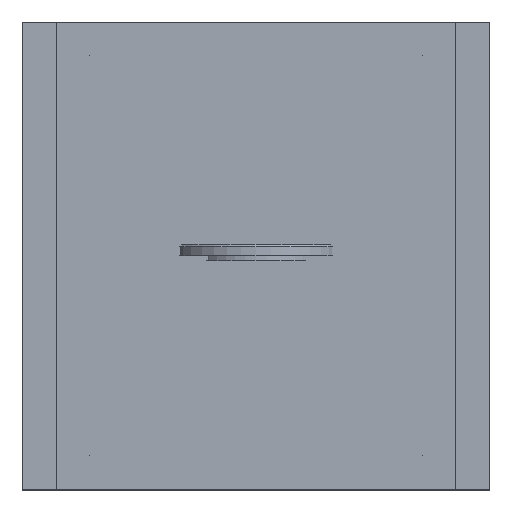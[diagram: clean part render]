
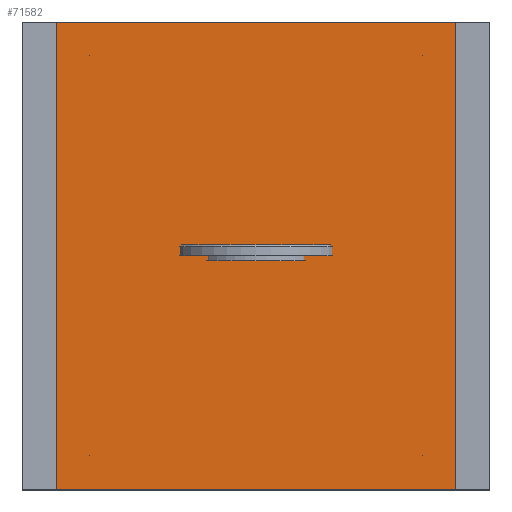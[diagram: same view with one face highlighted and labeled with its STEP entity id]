
A CAD part, top view. The second image highlights one B-rep face of the part: STEP entity #71582.
In plain terms, the highlighted planar face has unit normal (0, 0, 1).
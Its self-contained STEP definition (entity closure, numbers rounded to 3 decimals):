
#71268 = VERTEX_POINT('',#71269);
#71269 = CARTESIAN_POINT('',(-148.,-173.,402.));
#71276 = PLANE('',#71277);
#71277 = AXIS2_PLACEMENT_3D('',#71278,#71279,#71280);
#71278 = CARTESIAN_POINT('',(-148.,-173.,392.));
#71279 = DIRECTION('',(1.,0.,0.));
#71280 = DIRECTION('',(0.,0.,1.));
#71288 = PLANE('',#71289);
#71289 = AXIS2_PLACEMENT_3D('',#71290,#71291,#71292);
#71290 = CARTESIAN_POINT('',(-148.,-173.,392.));
#71291 = DIRECTION('',(0.,1.,0.));
#71292 = DIRECTION('',(0.,0.,1.));
#71329 = VERTEX_POINT('',#71330);
#71330 = CARTESIAN_POINT('',(-148.,173.,402.));
#71344 = PLANE('',#71345);
#71345 = AXIS2_PLACEMENT_3D('',#71346,#71347,#71348);
#71346 = CARTESIAN_POINT('',(-148.,173.,392.));
#71347 = DIRECTION('',(0.,1.,0.));
#71348 = DIRECTION('',(0.,0.,1.));
#71356 = EDGE_CURVE('',#71268,#71329,#71357,.T.);
#71357 = SURFACE_CURVE('',#71358,(#71362,#71369),.PCURVE_S1.);
#71358 = LINE('',#71359,#71360);
#71359 = CARTESIAN_POINT('',(-148.,-173.,402.));
#71360 = VECTOR('',#71361,1.);
#71361 = DIRECTION('',(0.,1.,0.));
#71362 = PCURVE('',#71276,#71363);
#71363 = DEFINITIONAL_REPRESENTATION('',(#71364),#71368);
#71364 = LINE('',#71365,#71366);
#71365 = CARTESIAN_POINT('',(10.,0.));
#71366 = VECTOR('',#71367,1.);
#71367 = DIRECTION('',(0.,-1.));
#71368 = ( GEOMETRIC_REPRESENTATION_CONTEXT(2) 
PARAMETRIC_REPRESENTATION_CONTEXT() REPRESENTATION_CONTEXT('2D SPACE',''
  ) );
#71369 = PCURVE('',#71370,#71375);
#71370 = PLANE('',#71371);
#71371 = AXIS2_PLACEMENT_3D('',#71372,#71373,#71374);
#71372 = CARTESIAN_POINT('',(-148.,-173.,402.));
#71373 = DIRECTION('',(0.,0.,1.));
#71374 = DIRECTION('',(1.,0.,0.));
#71375 = DEFINITIONAL_REPRESENTATION('',(#71376),#71380);
#71376 = LINE('',#71377,#71378);
#71377 = CARTESIAN_POINT('',(0.,0.));
#71378 = VECTOR('',#71379,1.);
#71379 = DIRECTION('',(0.,1.));
#71380 = ( GEOMETRIC_REPRESENTATION_CONTEXT(2) 
PARAMETRIC_REPRESENTATION_CONTEXT() REPRESENTATION_CONTEXT('2D SPACE',''
  ) );
#71388 = VERTEX_POINT('',#71389);
#71389 = CARTESIAN_POINT('',(148.,-173.,402.));
#71396 = PLANE('',#71397);
#71397 = AXIS2_PLACEMENT_3D('',#71398,#71399,#71400);
#71398 = CARTESIAN_POINT('',(148.,-173.,392.));
#71399 = DIRECTION('',(1.,0.,0.));
#71400 = DIRECTION('',(0.,0.,1.));
#71439 = VERTEX_POINT('',#71440);
#71440 = CARTESIAN_POINT('',(148.,173.,402.));
#71461 = EDGE_CURVE('',#71388,#71439,#71462,.T.);
#71462 = SURFACE_CURVE('',#71463,(#71467,#71474),.PCURVE_S1.);
#71463 = LINE('',#71464,#71465);
#71464 = CARTESIAN_POINT('',(148.,-173.,402.));
#71465 = VECTOR('',#71466,1.);
#71466 = DIRECTION('',(0.,1.,0.));
#71467 = PCURVE('',#71396,#71468);
#71468 = DEFINITIONAL_REPRESENTATION('',(#71469),#71473);
#71469 = LINE('',#71470,#71471);
#71470 = CARTESIAN_POINT('',(10.,0.));
#71471 = VECTOR('',#71472,1.);
#71472 = DIRECTION('',(0.,-1.));
#71473 = ( GEOMETRIC_REPRESENTATION_CONTEXT(2) 
PARAMETRIC_REPRESENTATION_CONTEXT() REPRESENTATION_CONTEXT('2D SPACE',''
  ) );
#71474 = PCURVE('',#71370,#71475);
#71475 = DEFINITIONAL_REPRESENTATION('',(#71476),#71480);
#71476 = LINE('',#71477,#71478);
#71477 = CARTESIAN_POINT('',(296.,0.));
#71478 = VECTOR('',#71479,1.);
#71479 = DIRECTION('',(0.,1.));
#71480 = ( GEOMETRIC_REPRESENTATION_CONTEXT(2) 
PARAMETRIC_REPRESENTATION_CONTEXT() REPRESENTATION_CONTEXT('2D SPACE',''
  ) );
#71507 = EDGE_CURVE('',#71268,#71388,#71508,.T.);
#71508 = SURFACE_CURVE('',#71509,(#71513,#71520),.PCURVE_S1.);
#71509 = LINE('',#71510,#71511);
#71510 = CARTESIAN_POINT('',(-148.,-173.,402.));
#71511 = VECTOR('',#71512,1.);
#71512 = DIRECTION('',(1.,0.,0.));
#71513 = PCURVE('',#71288,#71514);
#71514 = DEFINITIONAL_REPRESENTATION('',(#71515),#71519);
#71515 = LINE('',#71516,#71517);
#71516 = CARTESIAN_POINT('',(10.,0.));
#71517 = VECTOR('',#71518,1.);
#71518 = DIRECTION('',(0.,1.));
#71519 = ( GEOMETRIC_REPRESENTATION_CONTEXT(2) 
PARAMETRIC_REPRESENTATION_CONTEXT() REPRESENTATION_CONTEXT('2D SPACE',''
  ) );
#71520 = PCURVE('',#71370,#71521);
#71521 = DEFINITIONAL_REPRESENTATION('',(#71522),#71526);
#71522 = LINE('',#71523,#71524);
#71523 = CARTESIAN_POINT('',(0.,0.));
#71524 = VECTOR('',#71525,1.);
#71525 = DIRECTION('',(1.,0.));
#71526 = ( GEOMETRIC_REPRESENTATION_CONTEXT(2) 
PARAMETRIC_REPRESENTATION_CONTEXT() REPRESENTATION_CONTEXT('2D SPACE',''
  ) );
#71554 = EDGE_CURVE('',#71329,#71439,#71555,.T.);
#71555 = SURFACE_CURVE('',#71556,(#71560,#71567),.PCURVE_S1.);
#71556 = LINE('',#71557,#71558);
#71557 = CARTESIAN_POINT('',(-148.,173.,402.));
#71558 = VECTOR('',#71559,1.);
#71559 = DIRECTION('',(1.,0.,0.));
#71560 = PCURVE('',#71344,#71561);
#71561 = DEFINITIONAL_REPRESENTATION('',(#71562),#71566);
#71562 = LINE('',#71563,#71564);
#71563 = CARTESIAN_POINT('',(10.,0.));
#71564 = VECTOR('',#71565,1.);
#71565 = DIRECTION('',(0.,1.));
#71566 = ( GEOMETRIC_REPRESENTATION_CONTEXT(2) 
PARAMETRIC_REPRESENTATION_CONTEXT() REPRESENTATION_CONTEXT('2D SPACE',''
  ) );
#71567 = PCURVE('',#71370,#71568);
#71568 = DEFINITIONAL_REPRESENTATION('',(#71569),#71573);
#71569 = LINE('',#71570,#71571);
#71570 = CARTESIAN_POINT('',(0.,346.));
#71571 = VECTOR('',#71572,1.);
#71572 = DIRECTION('',(1.,0.));
#71573 = ( GEOMETRIC_REPRESENTATION_CONTEXT(2) 
PARAMETRIC_REPRESENTATION_CONTEXT() REPRESENTATION_CONTEXT('2D SPACE',''
  ) );
#71582 = ADVANCED_FACE('',(#71583),#71370,.T.);
#71583 = FACE_BOUND('',#71584,.T.);
#71584 = EDGE_LOOP('',(#71585,#71586,#71587,#71588));
#71585 = ORIENTED_EDGE('',*,*,#71356,.F.);
#71586 = ORIENTED_EDGE('',*,*,#71507,.T.);
#71587 = ORIENTED_EDGE('',*,*,#71461,.T.);
#71588 = ORIENTED_EDGE('',*,*,#71554,.F.);
